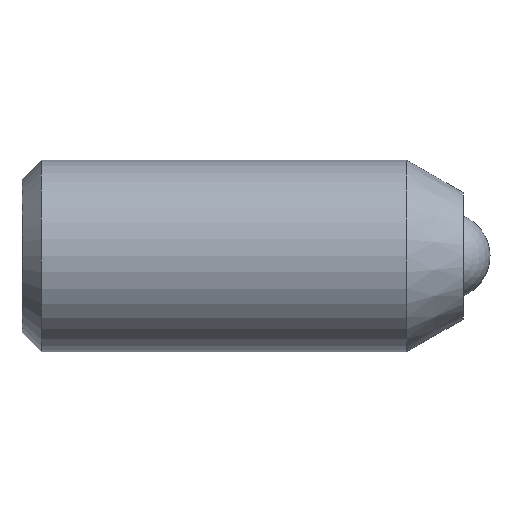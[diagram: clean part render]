
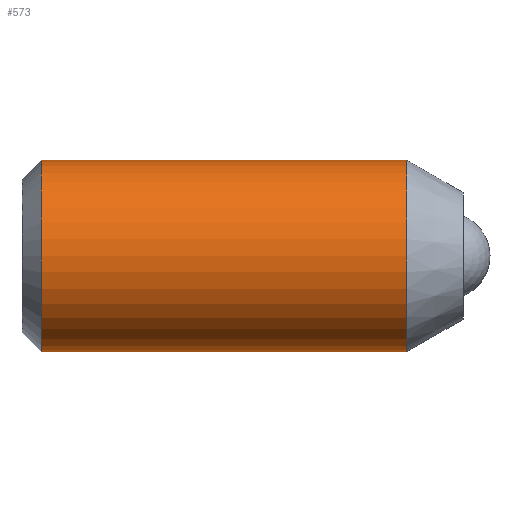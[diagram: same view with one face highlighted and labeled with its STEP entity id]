
A CAD part, top view. The second image highlights one B-rep face of the part: STEP entity #573.
In plain terms, the highlighted cylindrical face has radius 5 mm (diameter 10 mm), a partial arc.
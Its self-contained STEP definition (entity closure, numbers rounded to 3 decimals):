
#17 = EDGE_CURVE ( 'NONE', #616, #304, #382, .T. ) ;
#35 = ORIENTED_EDGE ( 'NONE', *, *, #478, .T. ) ;
#69 = EDGE_LOOP ( 'NONE', ( #35, #420, #363, #132 ) ) ;
#88 = CYLINDRICAL_SURFACE ( 'NONE', #121, 5. ) ;
#94 = CARTESIAN_POINT ( 'NONE',  ( 0., 5., 0. ) ) ;
#121 = AXIS2_PLACEMENT_3D ( 'NONE', #306, #684, #186 ) ;
#132 = ORIENTED_EDGE ( 'NONE', *, *, #17, .F. ) ;
#163 = CARTESIAN_POINT ( 'NONE',  ( -23.4, 5., 0. ) ) ;
#164 = CARTESIAN_POINT ( 'NONE',  ( -23.4, 0., 0. ) ) ;
#186 = DIRECTION ( 'NONE',  ( 0., 1., 0. ) ) ;
#198 = CARTESIAN_POINT ( 'NONE',  ( -4.344, 0., 0. ) ) ;
#219 = DIRECTION ( 'NONE',  ( 1., 0., 0. ) ) ;
#267 = AXIS2_PLACEMENT_3D ( 'NONE', #164, #219, #551 ) ;
#304 = VERTEX_POINT ( 'NONE', #696 ) ;
#306 = CARTESIAN_POINT ( 'NONE',  ( 0., 0., 0. ) ) ;
#325 = VERTEX_POINT ( 'NONE', #529 ) ;
#338 = DIRECTION ( 'NONE',  ( 1., 0., 0. ) ) ;
#363 = ORIENTED_EDGE ( 'NONE', *, *, #582, .F. ) ;
#381 = CARTESIAN_POINT ( 'NONE',  ( 0., -5., 0. ) ) ;
#382 = LINE ( 'NONE', #94, #458 ) ;
#384 = VECTOR ( 'NONE', #338, 1000. ) ;
#420 = ORIENTED_EDGE ( 'NONE', *, *, #428, .T. ) ;
#428 = EDGE_CURVE ( 'NONE', #325, #523, #432, .T. ) ;
#432 = LINE ( 'NONE', #381, #384 ) ;
#458 = VECTOR ( 'NONE', #530, 1000. ) ;
#478 = EDGE_CURVE ( 'NONE', #616, #325, #570, .T. ) ;
#502 = DIRECTION ( 'NONE',  ( 1., 0., 0. ) ) ;
#519 = AXIS2_PLACEMENT_3D ( 'NONE', #198, #502, #672 ) ;
#521 = CARTESIAN_POINT ( 'NONE',  ( -4.344, -5., 0. ) ) ;
#523 = VERTEX_POINT ( 'NONE', #521 ) ;
#529 = CARTESIAN_POINT ( 'NONE',  ( -23.4, -5., 0. ) ) ;
#530 = DIRECTION ( 'NONE',  ( 1., 0., 0. ) ) ;
#551 = DIRECTION ( 'NONE',  ( 0., 1., 0. ) ) ;
#570 = CIRCLE ( 'NONE', #267, 5. ) ;
#573 = ADVANCED_FACE ( 'NONE', ( #579 ), #88, .T. ) ;
#579 = FACE_OUTER_BOUND ( 'NONE', #69, .T. ) ;
#582 = EDGE_CURVE ( 'NONE', #304, #523, #589, .T. ) ;
#589 = CIRCLE ( 'NONE', #519, 5. ) ;
#616 = VERTEX_POINT ( 'NONE', #163 ) ;
#672 = DIRECTION ( 'NONE',  ( 0., 1., 0. ) ) ;
#684 = DIRECTION ( 'NONE',  ( 1., 0., 0. ) ) ;
#696 = CARTESIAN_POINT ( 'NONE',  ( -4.344, 5., 0. ) ) ;
